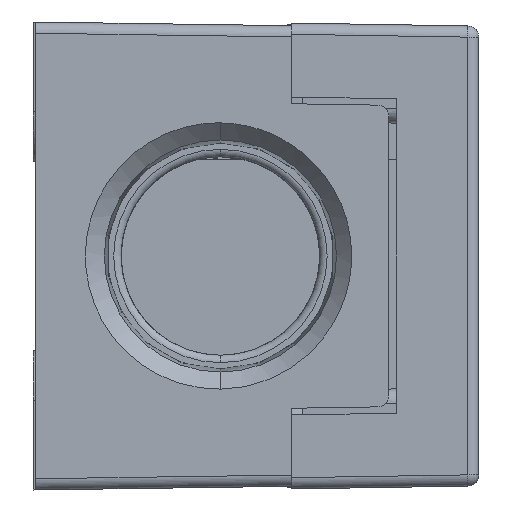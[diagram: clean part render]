
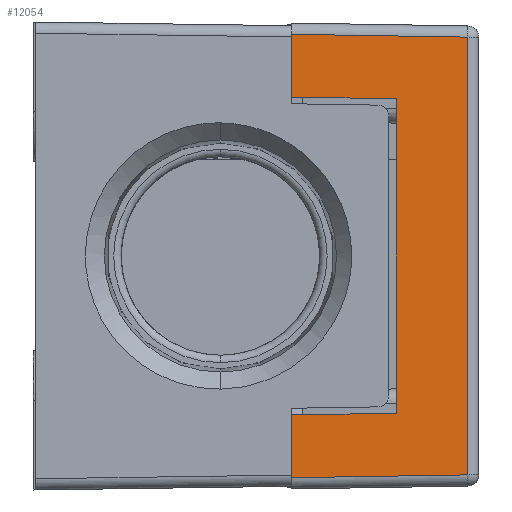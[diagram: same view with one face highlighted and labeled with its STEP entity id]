
A CAD part, front view. The second image highlights one B-rep face of the part: STEP entity #12054.
In plain terms, the highlighted planar face has unit normal (0.016, -1, 0).
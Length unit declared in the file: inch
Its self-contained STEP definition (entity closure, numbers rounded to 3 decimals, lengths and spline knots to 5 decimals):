
#1241=DIRECTION('',(0.,0.,1.));
#1242=VECTOR('',#1241,0.2515);
#1243=CARTESIAN_POINT('',(0.19,-3.68572,-0.88823));
#1244=LINE('',#1243,#1242);
#3276=DIRECTION('',(1.,0.016,0.016));
#3277=VECTOR('',#3276,0.7059);
#3278=CARTESIAN_POINT('',(0.19,-3.68572,-0.88823));
#3279=LINE('',#3278,#3277);
#3299=DIRECTION('',(0.,0.,-1.));
#3300=VECTOR('',#3299,1.26);
#3301=CARTESIAN_POINT('',(0.61,-3.679,0.63));
#3302=LINE('',#3301,#3300);
#3312=DIRECTION('',(-1.,-0.016,0.016));
#3313=VECTOR('',#3312,0.7059);
#3314=CARTESIAN_POINT('',(0.89572,-3.67442,
0.87693));
#3315=LINE('',#3314,#3313);
#3335=DIRECTION('',(0.,0.,1.));
#3336=VECTOR('',#3335,1.75386);
#3337=CARTESIAN_POINT('',(0.89572,-3.67442,
-0.87693));
#3338=LINE('',#3337,#3336);
#3374=DIRECTION('',(0.,0.,1.));
#3375=VECTOR('',#3374,0.2515);
#3376=CARTESIAN_POINT('',(0.19,-3.68572,0.63672));
#3377=LINE('',#3376,#3375);
#3408=DIRECTION('',(1.,0.016,-0.016));
#3409=VECTOR('',#3408,0.42011);
#3410=CARTESIAN_POINT('',(0.19,-3.68572,0.63672));
#3411=LINE('',#3410,#3409);
#3568=DIRECTION('',(-1.,-0.016,-0.016));
#3569=VECTOR('',#3568,0.42011);
#3570=CARTESIAN_POINT('',(0.61,-3.679,-0.63));
#3571=LINE('',#3570,#3569);
#7270=CARTESIAN_POINT('',(0.61,-3.679,0.63));
#7271=CARTESIAN_POINT('',(0.61,-3.679,-0.63));
#7272=VERTEX_POINT('',#7270);
#7273=VERTEX_POINT('',#7271);
#7276=CARTESIAN_POINT('',(0.19,-3.68572,0.63672));
#7277=VERTEX_POINT('',#7276);
#7278=CARTESIAN_POINT('',(0.19,-3.68572,-0.63672));
#7279=VERTEX_POINT('',#7278);
#7332=CARTESIAN_POINT('',(0.89572,-3.67442,
0.87693));
#7333=CARTESIAN_POINT('',(0.19,-3.68572,0.88823));
#7334=VERTEX_POINT('',#7332);
#7335=VERTEX_POINT('',#7333);
#7336=CARTESIAN_POINT('',(0.89572,-3.67442,
-0.87693));
#7337=VERTEX_POINT('',#7336);
#7338=CARTESIAN_POINT('',(0.19,-3.68572,-0.88823));
#7339=VERTEX_POINT('',#7338);
#12033=CARTESIAN_POINT('',(0.235,-3.685,0.98678));
#12034=DIRECTION('',(0.016,-1.,0.));
#12035=DIRECTION('',(0.,0.,1.));
#12036=AXIS2_PLACEMENT_3D('',#12033,#12034,#12035);
#12037=PLANE('',#12036);
#12039=ORIENTED_EDGE('',*,*,#12038,.F.);
#12041=ORIENTED_EDGE('',*,*,#12040,.F.);
#12042=ORIENTED_EDGE('',*,*,#12025,.F.);
#12043=ORIENTED_EDGE('',*,*,#9696,.T.);
#12045=ORIENTED_EDGE('',*,*,#12044,.F.);
#12047=ORIENTED_EDGE('',*,*,#12046,.F.);
#12049=ORIENTED_EDGE('',*,*,#12048,.F.);
#12051=ORIENTED_EDGE('',*,*,#12050,.T.);
#12052=EDGE_LOOP('',(#12039,#12041,#12042,#12043,#12045,#12047,#12049,#12051));
#12053=FACE_OUTER_BOUND('',#12052,.F.);
#12054=ADVANCED_FACE('',(#12053),#12037,.T.);
#9696=EDGE_CURVE('',#7339,#7279,#1244,.T.);
#12025=EDGE_CURVE('',#7339,#7337,#3279,.T.);
#12038=EDGE_CURVE('',#7334,#7335,#3315,.T.);
#12040=EDGE_CURVE('',#7337,#7334,#3338,.T.);
#12044=EDGE_CURVE('',#7273,#7279,#3571,.T.);
#12046=EDGE_CURVE('',#7272,#7273,#3302,.T.);
#12048=EDGE_CURVE('',#7277,#7272,#3411,.T.);
#12050=EDGE_CURVE('',#7277,#7335,#3377,.T.);
